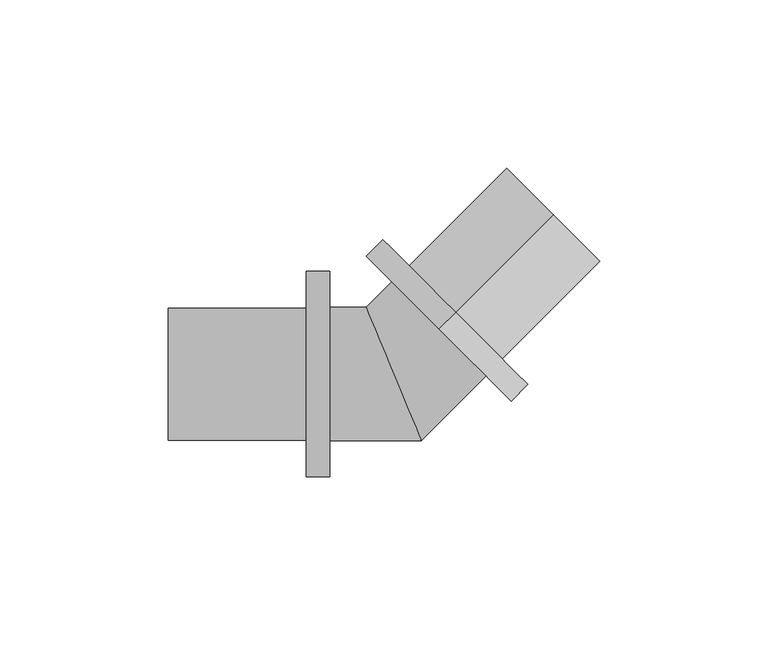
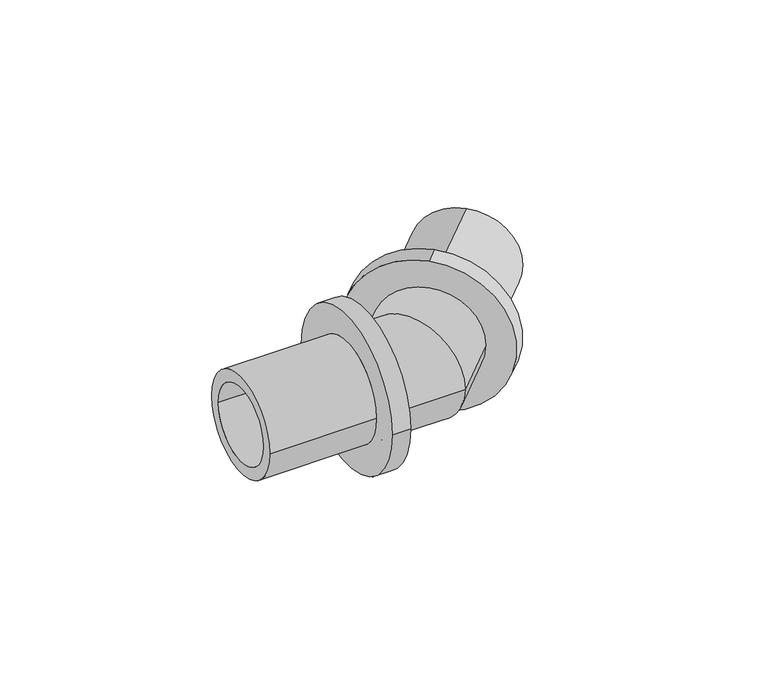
"""IFC4 building model written with IfcOpenShell, lengths in millimetres: pipe fitting geometry, RAUTITAN_Corner_LX : RTI LX C DE."""

from ifc_helpers import new_model, si_unit, frame, origin, place, context, project, spatial, polyline, circle_curve, ellipse_curve, source, transform, mapped, element, save
from ifc_brep_helpers import plane_surface, cylinder_surface, revolved_surface, advanced_brep


def pipe_fitting_f073d995(model_context):
    return source(origin(), model_context, "Body", "AdvancedBrep", [
        advanced_brep(
        [(18.3847763, 18.3847763, 30.5), (18.3847763, 18.3847763, -30.5), (13.4350288, 13.4350288, -30.5), (13.4350288, 13.4350288, 30.5), (47.3761543, 47.3761543, 19.6), (47.3761543, 47.3761543, -19.6), (18.3847763, 18.3847763, -19.6), (18.3847763, 18.3847763, 19.6), (13.4350288, 13.4350288, 15.0), (13.4350288, 13.4350288, -15.0), (47.3761543, 47.3761543, -15.0), (47.3761543, 47.3761543, 15.0)],
        [
            (0, 1, circle_curve(frame((18.3847763, 18.3847763, 0.0), z_axis=(-0.707106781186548, -0.707106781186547, 0.0), x_axis=(0.0, 0.0, -1.0)), 30.5)),
            (1, 2),
            (2, 3, circle_curve(frame((13.4350288, 13.4350288, 0.0), z_axis=(0.707106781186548, 0.707106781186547, 0.0), x_axis=(0.0, 0.0, -1.0)), 30.5)),
            (3, 0),
            (4, 5, circle_curve(frame((47.3761543, 47.3761543, 0.0), z_axis=(-0.707106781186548, -0.707106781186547, 0.0), x_axis=(0.0, 0.0, -1.0)), 19.6)),
            (5, 6),
            (6, 7, circle_curve(frame((18.3847763, 18.3847763, 0.0), z_axis=(0.707106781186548, 0.707106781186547, 0.0), x_axis=(0.0, 0.0, -1.0)), 19.6)),
            (7, 4),
            (8, 9, circle_curve(frame((13.4350288, 13.4350288, 0.0), z_axis=(-0.707106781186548, -0.707106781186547, 0.0), x_axis=(0.0, 0.0, -1.0)), 15.0)),
            (9, 10),
            (10, 11, circle_curve(frame((47.3761543, 47.3761543, 0.0), z_axis=(0.707106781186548, 0.707106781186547, 0.0), x_axis=(0.0, 0.0, -1.0)), 15.0)),
            (11, 8),
            (1, 0, circle_curve(frame((18.3847763, 18.3847763, 0.0), z_axis=(-0.707106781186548, -0.707106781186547, 0.0), x_axis=(0.0, 0.0, 1.0)), 30.5)),
            (3, 2, circle_curve(frame((13.4350288, 13.4350288, 0.0), z_axis=(0.707106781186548, 0.707106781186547, 0.0), x_axis=(0.0, 0.0, 1.0)), 30.5)),
            (6, 7, circle_curve(frame((18.3847763, 18.3847763, 0.0), z_axis=(-0.707106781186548, -0.707106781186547, 0.0), x_axis=(0.0, 0.0, 1.0)), 19.6)),
            (5, 4, circle_curve(frame((47.3761543, 47.3761543, 0.0), z_axis=(-0.707106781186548, -0.707106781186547, 0.0), x_axis=(0.0, 0.0, 1.0)), 19.6)),
            (10, 11, circle_curve(frame((47.3761543, 47.3761543, 0.0), z_axis=(-0.707106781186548, -0.707106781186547, 0.0), x_axis=(0.0, 0.0, 1.0)), 15.0)),
            (9, 8, circle_curve(frame((13.4350288, 13.4350288, 0.0), z_axis=(-0.707106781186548, -0.707106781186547, 0.0), x_axis=(0.0, 0.0, 1.0)), 15.0)),
        ],
        [
            cylinder_surface(frame((13.4350288, 13.4350288, 0.0), z_axis=(0.707106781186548, 0.707106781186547, 0.0), x_axis=(0.0, 0.0, -1.0)), 30.5),
            cylinder_surface(frame((13.4350288, 13.4350288, 0.0), z_axis=(0.707106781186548, 0.707106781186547, 0.0), x_axis=(0.0, 0.0, -1.0)), 19.6),
            revolved_surface(polyline([(47.376154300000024, 47.376154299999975, -15.0), (13.4350288, 13.4350288, -15.0)]), (13.4350288, 13.4350288, 0.0), (0.707106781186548, 0.707106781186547, 0.0)),
            cylinder_surface(frame((13.4350288, 13.4350288, 0.0), z_axis=(0.707106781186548, 0.707106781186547, 0.0), x_axis=(0.0, 0.0, 1.0)), 30.5),
            plane_surface(frame((18.3847763, 18.3847763, 0.0), z_axis=(0.707106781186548, 0.707106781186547, 0.0), x_axis=(0.0, 0.0, 1.0))),
            cylinder_surface(frame((13.4350288, 13.4350288, 0.0), z_axis=(0.707106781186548, 0.707106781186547, 0.0), x_axis=(0.0, 0.0, 1.0)), 19.6),
            plane_surface(frame((47.3761543, 47.3761543, 0.0), z_axis=(0.707106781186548, 0.707106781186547, 0.0), x_axis=(0.0, 0.0, 1.0))),
            revolved_surface(polyline([(47.376154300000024, 47.376154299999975, 15.0), (13.4350288, 13.4350288, 15.0)]), (13.4350288, 13.4350288, 0.0), (0.707106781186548, 0.707106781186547, 0.0)),
            plane_surface(frame((13.4350288, 13.4350288, 0.0), z_axis=(-0.707106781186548, -0.707106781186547, 0.0), x_axis=(0.0, 0.0, 1.0))),
        ],
        [
            (0, [[1, 2, 3, 4]]),
            (1, [[5, 6, 7, 8]]),
            (2, [[9, 10, 11, 12]]),
            (3, [[13, -4, 14, -2]]),
            (4, [[-13, -1], [15, -7]]),
            (5, [[16, -8, -15, -6]]),
            (6, [[-16, -5], [17, -11]]),
            (7, [[18, -12, -17, -10]]),
            (8, [[-14, -3], [-18, -9]]),
        ],
    ),
        advanced_brep(
        [(-26.0, -30.5, 0.0), (-26.0, 30.5, 0.0), (-19.0, 30.5, 0.0), (-19.0, -30.5, 0.0), (-67.0, -19.6, 0.0), (-67.0, 19.6, 0.0), (-26.0, 19.6, 0.0), (-26.0, -19.6, 0.0), (-19.0, -15.0, 0.0), (-19.0, 15.0, 0.0), (-67.0, 15.0, 0.0), (-67.0, -15.0, 0.0)],
        [
            (0, 1, circle_curve(frame((-26.0, 0.0, 0.0), z_axis=(1.0, 0.0, 0.0), x_axis=(0.0, 1.0, 0.0)), 30.5)),
            (1, 2),
            (2, 3, circle_curve(frame((-19.0, 0.0, 0.0), z_axis=(-1.0, 0.0, 0.0), x_axis=(0.0, 1.0, 0.0)), 30.5)),
            (3, 0),
            (4, 5, circle_curve(frame((-67.0, 0.0, 0.0), z_axis=(1.0, 0.0, 0.0), x_axis=(0.0, 1.0, 0.0)), 19.6)),
            (5, 6),
            (6, 7, circle_curve(frame((-26.0, 0.0, 0.0), z_axis=(-1.0, 0.0, 0.0), x_axis=(0.0, 1.0, 0.0)), 19.6)),
            (7, 4),
            (8, 9, circle_curve(frame((-19.0, 0.0, 0.0), z_axis=(1.0, 0.0, 0.0), x_axis=(0.0, 1.0, 0.0)), 15.0)),
            (9, 10),
            (10, 11, circle_curve(frame((-67.0, 0.0, 0.0), z_axis=(-1.0, 0.0, 0.0), x_axis=(0.0, 1.0, 0.0)), 15.0)),
            (11, 8),
            (1, 0, circle_curve(frame((-26.0, 0.0, 0.0), z_axis=(1.0, 0.0, 0.0), x_axis=(0.0, -1.0, 0.0)), 30.5)),
            (3, 2, circle_curve(frame((-19.0, 0.0, 0.0), z_axis=(-1.0, 0.0, 0.0), x_axis=(0.0, -1.0, 0.0)), 30.5)),
            (6, 7, circle_curve(frame((-26.0, 0.0, 0.0), z_axis=(1.0, 0.0, 0.0), x_axis=(0.0, -1.0, 0.0)), 19.6)),
            (5, 4, circle_curve(frame((-67.0, 0.0, 0.0), z_axis=(1.0, 0.0, 0.0), x_axis=(0.0, -1.0, 0.0)), 19.6)),
            (10, 11, circle_curve(frame((-67.0, 0.0, 0.0), z_axis=(1.0, 0.0, 0.0), x_axis=(0.0, -1.0, 0.0)), 15.0)),
            (9, 8, circle_curve(frame((-19.0, 0.0, 0.0), z_axis=(1.0, 0.0, 0.0), x_axis=(0.0, -1.0, 0.0)), 15.0)),
        ],
        [
            cylinder_surface(frame((-19.0, 0.0, 0.0), z_axis=(-1.0, 0.0, 0.0), x_axis=(0.0, 1.0, 0.0)), 30.5),
            cylinder_surface(frame((-19.0, 0.0, 0.0), z_axis=(-1.0, 0.0, 0.0), x_axis=(0.0, 1.0, 0.0)), 19.6),
            revolved_surface(polyline([(-67.0, 15.0, 0.0), (-19.0, 15.0, 0.0)]), (-19.0, 0.0, 0.0), (-1.0, 0.0, 0.0)),
            cylinder_surface(frame((-19.0, 0.0, 0.0), z_axis=(-1.0, 0.0, 0.0), x_axis=(0.0, -1.0, 0.0)), 30.5),
            plane_surface(frame((-26.0, 0.0, 0.0), z_axis=(-1.0, 0.0, 0.0), x_axis=(0.0, -1.0, 0.0))),
            cylinder_surface(frame((-19.0, 0.0, 0.0), z_axis=(-1.0, 0.0, 0.0), x_axis=(0.0, -1.0, 0.0)), 19.6),
            plane_surface(frame((-67.0, 0.0, 0.0), z_axis=(-1.0, 0.0, 0.0), x_axis=(0.0, -1.0, 0.0))),
            revolved_surface(polyline([(-67.0, -15.0, 0.0), (-19.0, -15.0, 0.0)]), (-19.0, 0.0, 0.0), (-1.0, 0.0, 0.0)),
            plane_surface(frame((-19.0, 0.0, 0.0), z_axis=(1.0, 0.0, 0.0), x_axis=(0.0, -1.0, 0.0))),
        ],
        [
            (0, [[1, 2, 3, 4]]),
            (1, [[5, 6, 7, 8]]),
            (2, [[9, 10, 11, 12]]),
            (3, [[13, -4, 14, -2]]),
            (4, [[-13, -1], [15, -7]]),
            (5, [[16, -8, -15, -6]]),
            (6, [[-16, -5], [17, -11]]),
            (7, [[18, -12, -17, -10]]),
            (8, [[-14, -3], [-18, -9]]),
        ],
    ),
        advanced_brep(
        [(-19.0, -19.8, 0.0), (-19.0, 19.8, 0.0), (-19.0, -15.0, 0.0), (-19.0, 15.0, 0.0), (-6.2132034, 15.0, 0.0), (6.2132034, -15.0, 0.0), (27.4357431, -0.5656854, 0.0), (-0.5656854, 27.4357431, 0.0), (24.0416306, 2.8284271, 0.0), (2.8284271, 24.0416306, 0.0), (8.2014285, -19.8, 0.0), (-8.2014285, 19.8, 0.0)],
        [
            (0, 1, circle_curve(frame((-19.0, 0.0, 0.0), z_axis=(-1.0, 0.0, 0.0), x_axis=(0.0, 1.0, 0.0)), 19.8)),
            (1, 0, circle_curve(frame((-19.0, 0.0, 0.0), z_axis=(-1.0, 0.0, 0.0), x_axis=(0.0, 1.0, 0.0)), 19.8)),
            (2, 3, circle_curve(frame((-19.0, 0.0, 0.0), z_axis=(1.0, 0.0, 0.0), x_axis=(0.0, 1.0, 0.0)), 15.0)),
            (3, 2, circle_curve(frame((-19.0, 0.0, 0.0), z_axis=(1.0, 0.0, 0.0), x_axis=(0.0, 1.0, 0.0)), 15.0)),
            (3, 4),
            (4, 5, ellipse_curve(frame((0.0, 0.0, 0.0), z_axis=(0.9238795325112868, 0.38268343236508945, 0.0), x_axis=(0.3826834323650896, -0.923879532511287, 0.0)), 16.235883, 15.0)),
            (5, 2),
            (5, 4, ellipse_curve(frame((0.0, 0.0, 0.0), z_axis=(0.9238795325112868, 0.38268343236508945, 0.0), x_axis=(0.3826834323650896, -0.923879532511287, 0.0)), 16.235883, 15.0)),
            (6, 7, circle_curve(frame((13.4350288, 13.4350288, 0.0), z_axis=(0.707106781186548, 0.707106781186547, 0.0), x_axis=(-0.707106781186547, 0.707106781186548, 0.0)), 19.8)),
            (7, 6, circle_curve(frame((13.4350288, 13.4350288, 0.0), z_axis=(0.707106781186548, 0.707106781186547, 0.0), x_axis=(-0.707106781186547, 0.707106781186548, 0.0)), 19.8)),
            (8, 9, circle_curve(frame((13.4350288, 13.4350288, 0.0), z_axis=(-0.707106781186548, -0.707106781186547, 0.0), x_axis=(-0.707106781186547, 0.707106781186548, 0.0)), 15.0)),
            (9, 8, circle_curve(frame((13.4350288, 13.4350288, 0.0), z_axis=(-0.707106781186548, -0.707106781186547, 0.0), x_axis=(-0.707106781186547, 0.707106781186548, 0.0)), 15.0)),
            (4, 9),
            (8, 5),
            (0, 10),
            (10, 11, ellipse_curve(frame((0.0, 0.0, 0.0), z_axis=(-0.9238795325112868, -0.38268343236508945, 0.0), x_axis=(-0.3826834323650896, 0.923879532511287, 0.0)), 21.4313656, 19.8)),
            (11, 1),
            (11, 10, ellipse_curve(frame((0.0, 0.0, 0.0), z_axis=(-0.9238795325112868, -0.38268343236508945, 0.0), x_axis=(-0.3826834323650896, 0.923879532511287, 0.0)), 21.4313656, 19.8)),
            (10, 6),
            (7, 11),
        ],
        [
            plane_surface(frame((-19.0, 0.0, 0.0), z_axis=(-1.0, 0.0, 0.0), x_axis=(0.0, 0.0, 1.0))),
            revolved_surface(polyline([(6.213203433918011, 15.0, 0.0), (-19.0, 15.0, 0.0)]), (-19.0, 0.0, 0.0), (1.0, 0.0, 0.0)),
            plane_surface(frame((13.4350288, 13.4350288, 0.0), z_axis=(0.707106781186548, 0.707106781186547, 0.0), x_axis=(0.0, 0.0, 1.0))),
            revolved_surface(polyline([(2.828427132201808, 24.041630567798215, 0.0), (-15.000000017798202, 6.213203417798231, 0.0)]), (0.0, 0.0, 0.0), (0.707106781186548, 0.707106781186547, 0.0)),
            cylinder_surface(frame((-19.0, 0.0, 0.0), z_axis=(-1.0, 0.0, 0.0), x_axis=(0.0, 1.0, 0.0)), 19.8),
            cylinder_surface(frame((0.0, 0.0, 0.0), z_axis=(-0.707106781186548, -0.707106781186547, 0.0), x_axis=(-0.707106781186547, 0.707106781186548, 0.0)), 19.8),
        ],
        [
            (0, [[1, 2], [3, 4]]),
            (1, [[-4, 5, 6, 7]]),
            (1, [[-3, -7, 8, -5]]),
            (2, [[9, 10], [11, 12]]),
            (3, [[-6, 13, -11, 14]]),
            (3, [[-8, -14, -12, -13]]),
            (4, [[-1, 15, 16, 17]]),
            (4, [[-2, -17, 18, -15]]),
            (5, [[-16, 19, -10, 20]]),
            (5, [[-18, -20, -9, -19]]),
        ],
    ),
    ])


if __name__ == "__main__":
    model = new_model("IFC4")
    model_context = context("Model", 3, world=origin())
    ifc_project = project(units=[si_unit("LENGTHUNIT", "METRE", prefix="MILLI")], contexts=[model_context])
    site = spatial("IfcSite", under=ifc_project)
    building = spatial("IfcBuilding", under=site)
    placement = place(None, origin())
    pipe_fitting_shape = pipe_fitting_f073d995(model_context)
    element("IfcPipeFitting", 1, ObjectType="RAUTITAN_Corner_LX : RTI LX C DE", at=placement, inside=building, context=model_context, shape_type="MappedRepresentation", body=[
        mapped(pipe_fitting_shape, transform((0.0, 0.0, 0.0), x_axis=(1.0, 0.0, 0.0), y_axis=(0.0, 1.0, 0.0), z_axis=(0.0, 0.0, 1.0))),
    ])
    save(model, "model.ifc")
